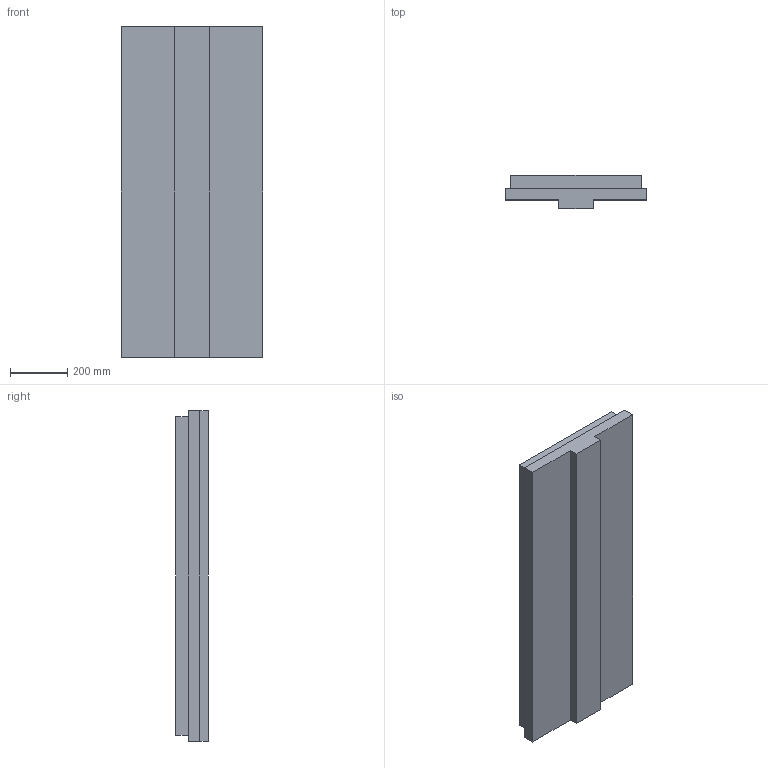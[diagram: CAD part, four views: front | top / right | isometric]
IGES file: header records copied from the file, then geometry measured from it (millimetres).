
Start section: SolidWorks IGES file using analytic representation for surfaces
Global section: file name: J:\Scolaire\BAC Pro\Epreuves professionnelles\E2\CD\Dossier Examinateurs\Dessins CN 5 axes\IGES\bas de Table.IGS; native system: SolidWorks 2005 by SolidWorks Corporation; preprocessor: SolidWorks 2005 by SolidWorks Corporation; author: Famille Couzi; date: 091204.124146; units: millimetre
Bounding box: 497 x 115 x 1158 mm (x, y, z)
Surface area: 1501882 mm2 (no closed solid volume)
Topology: 0 solids, 0 shells, 15 faces, 72 edges, 72 vertices
Faces by surface type: bspline 15
